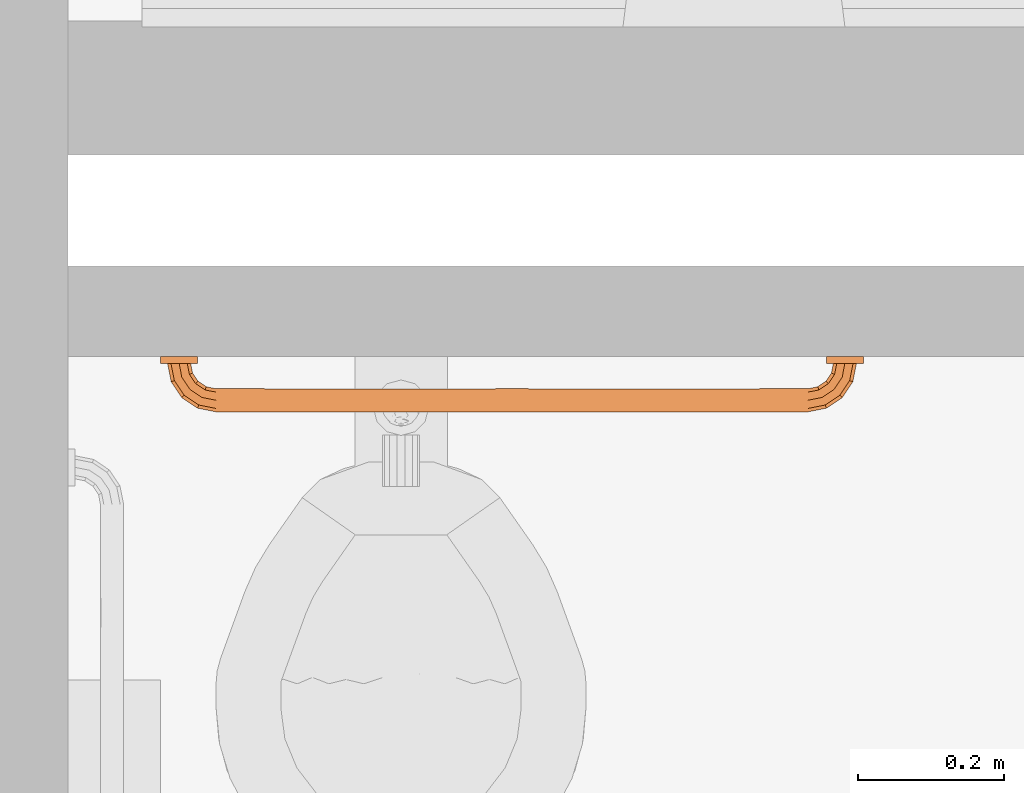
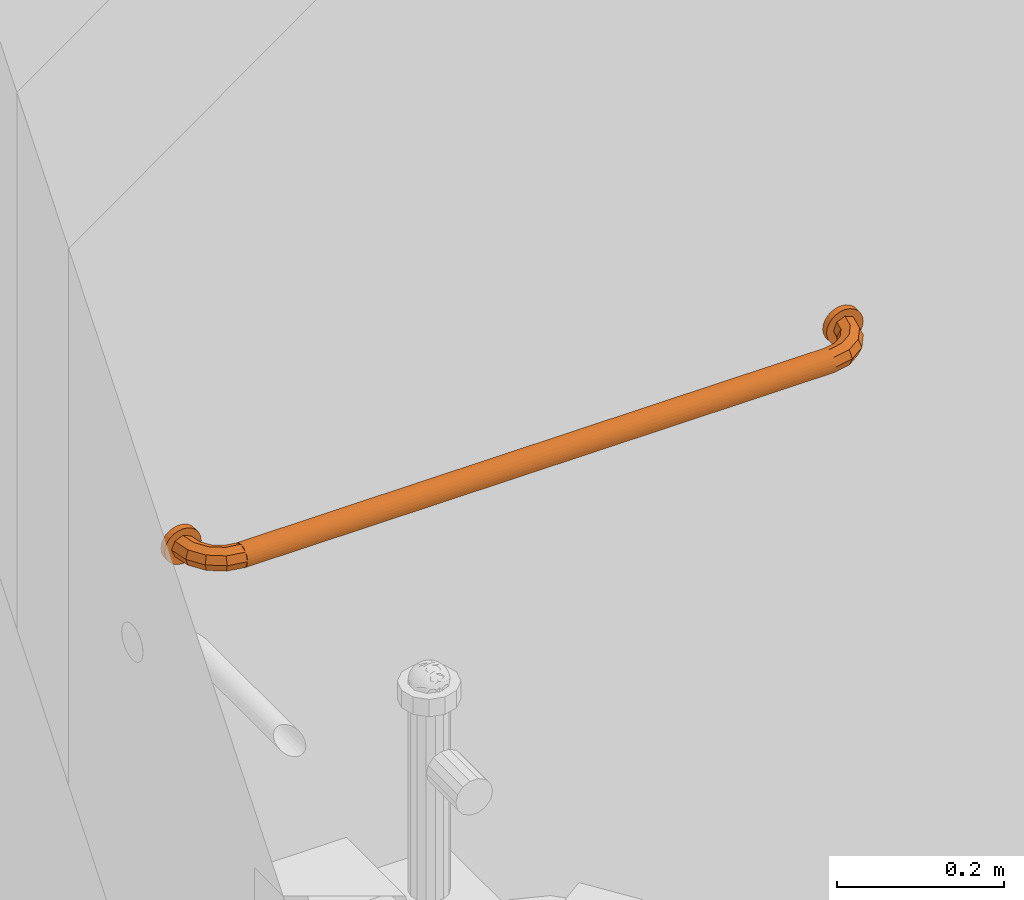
# One storey, part 89 of 142: 1 proxy.
"""IFC2X3 building model written with IfcOpenShell, lengths in feet."""

from ifc_helpers import new_model, entity, si_unit, converted_unit, derived_unit, direction, frame, origin, place, context, subcontext, project, spatial, faceted_brep, source, transform, mapped, type_object, type_shapes, element, save


model = new_model("IFC2X3")

# Units and contexts
model_context = context("Model", 3, precision=0.0001, world=origin(), true_north=direction((6.12303176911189e-17, 1.0)))
body_context = subcontext(model_context, "Body", "Model", "MODEL_VIEW")
ifc_project = project(units=[converted_unit("LENGTHUNIT", "FOOT", entity("IfcRatioMeasure", 0.3048), si_unit("LENGTHUNIT", "METRE"), dimensions=[1, 0, 0, 0, 0, 0, 0]), converted_unit("AREAUNIT", "SQUARE FOOT", entity("IfcRatioMeasure", 0.09290304), si_unit("AREAUNIT", "SQUARE_METRE"), dimensions=[2, 0, 0, 0, 0, 0, 0]), converted_unit("VOLUMEUNIT", "CUBIC FOOT", entity("IfcRatioMeasure", 0.028316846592), si_unit("VOLUMEUNIT", "CUBIC_METRE"), dimensions=[3, 0, 0, 0, 0, 0, 0]), converted_unit("PLANEANGLEUNIT", "DEGREE", entity("IfcRatioMeasure", 0.0174532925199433), si_unit("PLANEANGLEUNIT", "RADIAN"), dimensions=[0, 0, 0, 0, 0, 0, 0]), si_unit("MASSUNIT", "GRAM", prefix="KILO"), derived_unit("MASSDENSITYUNIT", [(si_unit("MASSUNIT", "GRAM", prefix="KILO"), 1), (si_unit("LENGTHUNIT", "METRE"), -3)]), si_unit("TIMEUNIT", "SECOND"), si_unit("FREQUENCYUNIT", "HERTZ"), si_unit("THERMODYNAMICTEMPERATUREUNIT", "DEGREE_CELSIUS"), derived_unit("THERMALTRANSMITTANCEUNIT", [(si_unit("MASSUNIT", "GRAM", prefix="KILO"), 1), (si_unit("THERMODYNAMICTEMPERATUREUNIT", "KELVIN"), -1), (si_unit("TIMEUNIT", "SECOND"), -3)]), derived_unit("VOLUMETRICFLOWRATEUNIT", [(si_unit("LENGTHUNIT", "METRE"), 3), (si_unit("TIMEUNIT", "SECOND"), -1)]), si_unit("ELECTRICCURRENTUNIT", "AMPERE"), si_unit("ELECTRICVOLTAGEUNIT", "VOLT"), si_unit("POWERUNIT", "WATT"), si_unit("FORCEUNIT", "NEWTON"), si_unit("ILLUMINANCEUNIT", "LUX"), si_unit("LUMINOUSFLUXUNIT", "LUMEN"), si_unit("LUMINOUSINTENSITYUNIT", "CANDELA"), derived_unit("USERDEFINED", [(si_unit("MASSUNIT", "GRAM", prefix="KILO"), -1), (si_unit("LENGTHUNIT", "METRE"), -2), (si_unit("TIMEUNIT", "SECOND"), 3), (si_unit("LUMINOUSFLUXUNIT", "LUMEN"), 1)]), derived_unit("LINEARVELOCITYUNIT", [(si_unit("LENGTHUNIT", "METRE"), 1), (si_unit("TIMEUNIT", "SECOND"), -1)]), si_unit("PRESSUREUNIT", "PASCAL"), derived_unit("USERDEFINED", [(si_unit("LENGTHUNIT", "METRE"), -2), (si_unit("MASSUNIT", "GRAM", prefix="KILO"), 1), (si_unit("TIMEUNIT", "SECOND"), -2)])], contexts=[model_context])

# Site, building, storey, space
site_placement = place(None, origin())
site = spatial("IfcSite", under=ifc_project, at=site_placement, Name="Default", CompositionType="ELEMENT")
building_placement = place(site_placement, origin())
building = spatial("IfcBuilding", under=site, at=building_placement, Name="OUTPATIENT / PACT CLINIC (Ch. 265)", CompositionType="ELEMENT")
storey_placement = place(building_placement, origin())
storey = spatial("IfcBuildingStorey", under=building, at=storey_placement, Name="LEVEL 1", CompositionType="ELEMENT", Elevation=0.0)
space_placement = place(storey_placement, origin())
space = spatial("IfcSpace", under=storey, at=space_placement, Name="TPG01", CompositionType="ELEMENT", InteriorOrExteriorSpace="INTERNAL")

# Proxy
building_element_proxy_type = type_object("IfcBuildingElementProxyType", Name="A5109 - Grab Bar, 1.25 in Dia, SS, 2 Wall, W-C Accessible_Improved", PredefinedType="NOTDEFINED")
shared_shape = source(origin(), body_context, "Body", "Brep", [
    faceted_brep([(0.987313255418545, 0.0950305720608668, 0.0520833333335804), (0.953288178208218, 0.0809369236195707, 0.0368284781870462), (0.963171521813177, 0.031249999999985, 0.0368284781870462), (1.0, 0.0312499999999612, 0.0520833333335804), (0.939194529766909, 0.0750991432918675, 0.0), (0.947916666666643, 0.0312499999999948, 0.0), (0.953288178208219, 0.0809369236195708, -0.0368284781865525), (0.963171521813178, 0.031249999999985, -0.0368284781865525), (0.987313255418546, 0.0950305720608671, -0.0520833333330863), (1.0, 0.0312499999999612, -0.0520833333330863), (1.02133833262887, 0.109124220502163, -0.036828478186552), (1.03682847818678, 0.0312499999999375, -0.036828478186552), (1.03543198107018, 0.114962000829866, 0.0), (1.05208333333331, 0.0312499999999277, 0.0), (1.02133833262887, 0.109124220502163, 0.0368284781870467), (1.03682847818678, 0.0312499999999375, 0.0368284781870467), (0.951184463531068, 0.149101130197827, 0.0520833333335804), (0.925142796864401, 0.12305946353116, 0.0368284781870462), (0.914355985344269, 0.112272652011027, 0.0), (0.925142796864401, 0.12305946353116, -0.0368284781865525), (0.951184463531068, 0.149101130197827, -0.0520833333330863), (0.977226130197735, 0.175142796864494, -0.036828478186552), (0.988012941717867, 0.185929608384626, 0.0), (0.977226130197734, 0.175142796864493, 0.0368284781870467), (0.897113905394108, 0.185229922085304, 0.0520833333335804), (0.883020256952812, 0.151204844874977, 0.0368284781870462), (0.877182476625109, 0.137111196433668, 0.0), (0.883020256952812, 0.151204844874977, -0.0368284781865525), (0.897113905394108, 0.185229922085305, -0.0520833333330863), (0.911207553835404, 0.219254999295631, -0.036828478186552), (0.917045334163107, 0.23334864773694, 0.0), (0.911207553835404, 0.219254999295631, 0.0368284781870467), (0.833333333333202, 0.197916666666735, 0.0520833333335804), (0.833333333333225, 0.161088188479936, 0.0368284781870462), (0.833333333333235, 0.145833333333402, 0.0), (0.833333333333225, 0.161088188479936, -0.0368284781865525), (0.833333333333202, 0.197916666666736, -0.0520833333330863), (0.833333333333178, 0.234745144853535, -0.036828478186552), (0.833333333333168, 0.250000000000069, 0.0), (0.833333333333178, 0.234745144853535, 0.0368284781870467)], [[[0, 1, 2, 3]], [[1, 4, 5, 2]], [[4, 6, 7, 5]], [[6, 8, 9, 7]], [[8, 10, 11, 9]], [[10, 12, 13, 11]], [[12, 14, 15, 13]], [[14, 0, 3, 15]], [[16, 17, 1, 0]], [[17, 18, 4, 1]], [[18, 19, 6, 4]], [[19, 20, 8, 6]], [[20, 21, 10, 8]], [[21, 22, 12, 10]], [[22, 23, 14, 12]], [[23, 16, 0, 14]], [[24, 25, 17, 16]], [[25, 26, 18, 17]], [[26, 27, 19, 18]], [[27, 28, 20, 19]], [[28, 29, 21, 20]], [[29, 30, 22, 21]], [[30, 31, 23, 22]], [[31, 24, 16, 23]], [[32, 33, 25, 24]], [[33, 34, 26, 25]], [[34, 35, 27, 26]], [[35, 36, 28, 27]], [[36, 37, 29, 28]], [[37, 38, 30, 29]], [[38, 39, 31, 30]], [[39, 32, 24, 31]], [[3, 2, 5, 7, 9, 11, 13, 15]], [[39, 38, 37, 36, 35, 34, 33, 32]]]),
    faceted_brep([(0.958333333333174, 0.0312499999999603, -0.0721687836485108), (0.941074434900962, 0.0312499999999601, -0.0589255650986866), (0.927831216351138, 0.0312499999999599, -0.0416666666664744), (0.919506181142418, 0.0312499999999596, -0.0215682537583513), (0.916666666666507, 0.0312499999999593, 0.0), (0.919506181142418, 0.031249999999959, 0.021568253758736), (0.927831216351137, 0.0312499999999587, 0.0416666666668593), (0.941074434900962, 0.0312499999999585, 0.0589255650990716), (0.958333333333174, 0.0312499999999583, 0.0721687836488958), (0.978431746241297, 0.0312499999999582, 0.080493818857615), (1.0, 0.0312499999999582, 0.083333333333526), (1.02156825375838, 0.0312499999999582, 0.080493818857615), (1.04166666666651, 0.0312499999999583, 0.0721687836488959), (1.05892556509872, 0.0312499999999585, 0.0589255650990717), (1.07216878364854, 0.0312499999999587, 0.0416666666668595), (1.08049381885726, 0.031249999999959, 0.0215682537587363), (1.08333333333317, 0.0312499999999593, 0.0), (1.08049381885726, 0.0312499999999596, -0.0215682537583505), (1.07216878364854, 0.0312499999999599, -0.0416666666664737), (1.05892556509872, 0.0312499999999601, -0.0589255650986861), (1.04166666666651, 0.0312499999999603, -0.0721687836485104), (1.02156825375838, 0.0312499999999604, -0.0804938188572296), (1.0, 0.0312499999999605, -0.0833333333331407), (0.978431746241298, 0.0312499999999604, -0.0804938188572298), (0.978431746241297, 0.0, 0.0804938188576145), (0.958333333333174, 0.0, 0.0721687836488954), (0.941074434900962, 0.0, 0.0589255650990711), (0.927831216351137, 0.0, 0.0416666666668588), (0.919506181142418, 0.0, 0.0215682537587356), (0.916666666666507, 0.0, 0.0), (0.919506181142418, 0.0, -0.0215682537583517), (0.927831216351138, 0.0, -0.0416666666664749), (0.941074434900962, 0.0, -0.0589255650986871), (0.958333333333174, 0.0, -0.0721687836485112), (0.978431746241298, 0.0, -0.0804938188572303), (1.0, 0.0, -0.0833333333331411), (1.02156825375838, 0.0, -0.0804938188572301), (1.04166666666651, 0.0, -0.0721687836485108), (1.05892556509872, 0.0, -0.0589255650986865), (1.07216878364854, 0.0, -0.0416666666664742), (1.08049381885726, 0.0, -0.0215682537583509), (1.08333333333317, 0.0, 0.0), (1.08049381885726, 0.0, 0.0215682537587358), (1.07216878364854, 0.0, 0.0416666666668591), (1.05892556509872, 0.0, 0.0589255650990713), (1.04166666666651, 0.0, 0.0721687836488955), (1.02156825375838, 0.0, 0.0804938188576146), (1.0, 0.0, 0.0833333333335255)], [[[0, 1, 2, 3, 4, 5, 6, 7, 8, 9, 10, 11, 12, 13, 14, 15, 16, 17, 18, 19, 20, 21, 22, 23]], [[24, 25, 26, 27, 28, 29, 30, 31, 32, 33, 34, 35, 36, 37, 38, 39, 40, 41, 42, 43, 44, 45, 46, 47]], [[40, 17, 16, 41]], [[39, 18, 17, 40]], [[20, 19, 38, 37]], [[39, 38, 19, 18]], [[21, 20, 37, 36]], [[22, 21, 36, 35]], [[34, 23, 22, 35]], [[33, 0, 23, 34]], [[2, 1, 32, 31]], [[33, 32, 1, 0]], [[3, 2, 31, 30]], [[4, 3, 30, 29]], [[28, 5, 4, 29]], [[27, 6, 5, 28]], [[8, 7, 26, 25]], [[27, 26, 7, 6]], [[9, 8, 25, 24]], [[10, 9, 24, 47]], [[46, 11, 10, 47]], [[45, 12, 11, 46]], [[14, 13, 44, 43]], [[45, 44, 13, 12]], [[15, 14, 43, 42]], [[16, 15, 42, 41]]]),
    faceted_brep([(-1.89711390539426, 0.185229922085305, 0.052083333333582), (-1.88302025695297, 0.151204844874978, 0.0368284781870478), (-1.83333333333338, 0.161088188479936, 0.0368284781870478), (-1.83333333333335, 0.197916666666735, 0.052083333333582), (-1.87718247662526, 0.137111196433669, 0.0), (-1.83333333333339, 0.145833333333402, 0.0), (-1.88302025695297, 0.151204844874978, -0.0368284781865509), (-1.83333333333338, 0.161088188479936, -0.0368284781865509), (-1.89711390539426, 0.185229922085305, -0.0520833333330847), (-1.83333333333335, 0.197916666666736, -0.0520833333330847), (-1.91120755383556, 0.219254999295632, -0.0368284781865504), (-1.83333333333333, 0.234745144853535, -0.0368284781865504), (-1.91704533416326, 0.233348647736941, 0.0), (-1.83333333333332, 0.250000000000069, 0.0), (-1.91120755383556, 0.219254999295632, 0.0368284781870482), (-1.83333333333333, 0.234745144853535, 0.0368284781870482), (-1.95118446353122, 0.149101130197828, 0.052083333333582), (-1.92514279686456, 0.123059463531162, 0.0368284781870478), (-1.91435598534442, 0.112272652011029, 0.0), (-1.92514279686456, 0.123059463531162, -0.0368284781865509), (-1.95118446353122, 0.149101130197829, -0.0520833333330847), (-1.97722613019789, 0.175142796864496, -0.0368284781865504), (-1.98801294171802, 0.185929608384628, 0.0), (-1.97722613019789, 0.175142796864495, 0.0368284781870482), (-1.9873132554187, 0.0950305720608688, 0.052083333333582), (-1.95328817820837, 0.0809369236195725, 0.0368284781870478), (-1.93919452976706, 0.0750991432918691, 0.0), (-1.95328817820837, 0.0809369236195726, -0.0368284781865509), (-1.9873132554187, 0.0950305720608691, -0.0520833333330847), (-2.02133833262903, 0.109124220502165, -0.0368284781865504), (-2.03543198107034, 0.114962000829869, 0.0), (-2.02133833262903, 0.109124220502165, 0.0368284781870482), (-2.0, 0.0312499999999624, 0.052083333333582), (-1.96317152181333, 0.0312499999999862, 0.0368284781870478), (-1.9479166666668, 0.0312499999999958, 0.0), (-1.96317152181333, 0.0312499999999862, -0.0368284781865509), (-2.0, 0.0312499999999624, -0.0520833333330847), (-2.03682847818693, 0.0312499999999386, -0.0368284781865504), (-2.05208333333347, 0.031249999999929, 0.0), (-2.03682847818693, 0.0312499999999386, 0.0368284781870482)], [[[0, 1, 2, 3]], [[1, 4, 5, 2]], [[4, 6, 7, 5]], [[6, 8, 9, 7]], [[8, 10, 11, 9]], [[10, 12, 13, 11]], [[12, 14, 15, 13]], [[14, 0, 3, 15]], [[16, 17, 1, 0]], [[17, 18, 4, 1]], [[18, 19, 6, 4]], [[19, 20, 8, 6]], [[20, 21, 10, 8]], [[21, 22, 12, 10]], [[22, 23, 14, 12]], [[23, 16, 0, 14]], [[24, 25, 17, 16]], [[25, 26, 18, 17]], [[26, 27, 19, 18]], [[27, 28, 20, 19]], [[28, 29, 21, 20]], [[29, 30, 22, 21]], [[30, 31, 23, 22]], [[31, 24, 16, 23]], [[32, 33, 25, 24]], [[33, 34, 26, 25]], [[34, 35, 27, 26]], [[35, 36, 28, 27]], [[36, 37, 29, 28]], [[37, 38, 30, 29]], [[38, 39, 31, 30]], [[39, 32, 24, 31]], [[3, 2, 5, 7, 9, 11, 13, 15]], [[39, 38, 37, 36, 35, 34, 33, 32]]]),
    faceted_brep([(-1.97843174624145, 0.0312499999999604, -0.0804938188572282), (-2.0, 0.0312499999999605, -0.0833333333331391), (-2.02156825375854, 0.0312499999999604, -0.080493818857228), (-2.04166666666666, 0.0312499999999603, -0.0721687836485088), (-2.05892556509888, 0.0312499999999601, -0.0589255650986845), (-2.0721687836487, 0.0312499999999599, -0.0416666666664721), (-2.08049381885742, 0.0312499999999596, -0.0215682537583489), (-2.08333333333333, 0.0312499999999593, 0.0), (-2.08049381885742, 0.031249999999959, 0.0215682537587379), (-2.0721687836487, 0.0312499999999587, 0.0416666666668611), (-2.05892556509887, 0.0312499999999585, 0.0589255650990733), (-2.04166666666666, 0.0312499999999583, 0.0721687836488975), (-2.02156825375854, 0.0312499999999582, 0.0804938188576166), (-2.0, 0.0312499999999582, 0.0833333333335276), (-1.97843174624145, 0.0312499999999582, 0.0804938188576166), (-1.95833333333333, 0.0312499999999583, 0.0721687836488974), (-1.94107443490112, 0.0312499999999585, 0.0589255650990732), (-1.92783121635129, 0.0312499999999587, 0.0416666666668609), (-1.91950618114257, 0.031249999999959, 0.0215682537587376), (-1.91666666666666, 0.0312499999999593, 0.0), (-1.91950618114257, 0.0312499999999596, -0.0215682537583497), (-1.92783121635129, 0.0312499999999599, -0.0416666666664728), (-1.94107443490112, 0.0312499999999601, -0.058925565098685), (-1.95833333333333, 0.0312499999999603, -0.0721687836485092), (-2.0, 0.0, 0.0833333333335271), (-2.02156825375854, 0.0, 0.0804938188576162), (-2.04166666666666, 0.0, 0.0721687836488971), (-2.05892556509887, 0.0, 0.0589255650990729), (-2.0721687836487, 0.0, 0.0416666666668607), (-2.08049381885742, 0.0, 0.0215682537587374), (-2.08333333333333, 0.0, 0.0), (-2.08049381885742, 0.0, -0.0215682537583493), (-2.0721687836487, 0.0, -0.0416666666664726), (-2.05892556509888, 0.0, -0.0589255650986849), (-2.04166666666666, 0.0, -0.0721687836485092), (-2.02156825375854, 0.0, -0.0804938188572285), (-2.0, 0.0, -0.0833333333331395), (-1.97843174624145, 0.0, -0.0804938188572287), (-1.95833333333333, 0.0, -0.0721687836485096), (-1.94107443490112, 0.0, -0.0589255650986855), (-1.92783121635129, 0.0, -0.0416666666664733), (-1.91950618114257, 0.0, -0.0215682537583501), (-1.91666666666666, 0.0, 0.0), (-1.91950618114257, 0.0, 0.0215682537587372), (-1.92783121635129, 0.0, 0.0416666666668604), (-1.94107443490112, 0.0, 0.0589255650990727), (-1.95833333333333, 0.0, 0.072168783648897), (-1.97843174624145, 0.0, 0.0804938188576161)], [[[0, 1, 2, 3, 4, 5, 6, 7, 8, 9, 10, 11, 12, 13, 14, 15, 16, 17, 18, 19, 20, 21, 22, 23]], [[24, 25, 26, 27, 28, 29, 30, 31, 32, 33, 34, 35, 36, 37, 38, 39, 40, 41, 42, 43, 44, 45, 46, 47]], [[30, 7, 6, 31]], [[31, 6, 5, 32]], [[34, 33, 4, 3]], [[4, 33, 32, 5]], [[35, 34, 3, 2]], [[35, 2, 1, 36]], [[36, 1, 0, 37]], [[37, 0, 23, 38]], [[40, 39, 22, 21]], [[22, 39, 38, 23]], [[41, 40, 21, 20]], [[41, 20, 19, 42]], [[42, 19, 18, 43]], [[43, 18, 17, 44]], [[46, 45, 16, 15]], [[16, 45, 44, 17]], [[47, 46, 15, 14]], [[47, 14, 13, 24]], [[24, 13, 12, 25]], [[25, 12, 11, 26]], [[28, 27, 10, 9]], [[10, 27, 26, 11]], [[29, 28, 9, 8]], [[29, 8, 7, 30]]]),
    faceted_brep([(0.833333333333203, 0.161088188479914, 0.0368284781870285), (0.833333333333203, 0.152811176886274, 0.0260416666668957), (0.833333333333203, 0.147608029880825, 0.0134801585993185), (0.833333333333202, 0.14583333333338, 0.0), (0.833333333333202, 0.147608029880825, -0.0134801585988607), (0.833333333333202, 0.152811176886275, -0.0260416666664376), (0.833333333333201, 0.161088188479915, -0.0368284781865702), (0.833333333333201, 0.171875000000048, -0.0451054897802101), (0.833333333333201, 0.184436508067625, -0.0503086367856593), (0.833333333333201, 0.197916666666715, -0.0520833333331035), (0.833333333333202, 0.211396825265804, -0.0503086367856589), (0.833333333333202, 0.223958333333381, -0.0451054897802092), (0.833333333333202, 0.234745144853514, -0.0368284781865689), (0.833333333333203, 0.243022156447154, -0.0260416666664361), (0.833333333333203, 0.248225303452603, -0.013480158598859), (0.833333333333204, 0.250000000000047, 0.0), (0.833333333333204, 0.248225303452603, 0.0134801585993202), (0.833333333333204, 0.243022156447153, 0.0260416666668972), (0.833333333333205, 0.234745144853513, 0.0368284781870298), (0.833333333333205, 0.22395833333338, 0.0451054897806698), (0.833333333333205, 0.211396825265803, 0.050308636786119), (0.833333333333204, 0.197916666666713, 0.0520833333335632), (0.833333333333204, 0.184436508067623, 0.0503086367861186), (0.833333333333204, 0.171875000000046, 0.0451054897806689), (-1.83333333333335, 0.250000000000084, 0.0), (-1.83333333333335, 0.24822530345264, -0.0134801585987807), (-1.83333333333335, 0.243022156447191, -0.0260416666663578), (-1.83333333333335, 0.234745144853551, -0.0368284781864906), (-1.83333333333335, 0.223958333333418, -0.0451054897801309), (-1.83333333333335, 0.211396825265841, -0.0503086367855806), (-1.83333333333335, 0.197916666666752, -0.0520833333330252), (-1.83333333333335, 0.184436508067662, -0.050308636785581), (-1.83333333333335, 0.171875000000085, -0.0451054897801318), (-1.83333333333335, 0.161088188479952, -0.0368284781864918), (-1.83333333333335, 0.152811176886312, -0.0260416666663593), (-1.83333333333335, 0.147608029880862, -0.0134801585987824), (-1.83333333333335, 0.145833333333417, 0.0), (-1.83333333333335, 0.147608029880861, 0.0134801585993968), (-1.83333333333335, 0.152811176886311, 0.026041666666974), (-1.83333333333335, 0.161088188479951, 0.0368284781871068), (-1.83333333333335, 0.171875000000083, 0.0451054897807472), (-1.83333333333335, 0.18443650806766, 0.0503086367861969), (-1.83333333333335, 0.19791666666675, 0.0520833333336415), (-1.83333333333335, 0.21139682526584, 0.0503086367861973), (-1.83333333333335, 0.223958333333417, 0.0451054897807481), (-1.83333333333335, 0.23474514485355, 0.036828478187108), (-1.83333333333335, 0.24302215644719, 0.0260416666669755), (-1.83333333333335, 0.248225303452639, 0.0134801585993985), (0.027611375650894, 0.177985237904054, 0.0481187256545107), (0.213018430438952, 0.166210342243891, 0.0413204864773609), (0.0276113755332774, 0.156596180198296, 0.0317063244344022), (0.223932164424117, 0.149797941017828, 0.0199314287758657), (0.213018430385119, 0.14979794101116, -0.0199314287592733), (-0.500000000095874, 0.149797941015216, -0.0199314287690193), (-1.2130184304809, 0.14979794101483, -0.0199314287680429), (-0.500000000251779, 0.154851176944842, -0.0292922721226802), (0.21301843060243, 0.166210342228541, -0.0413204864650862), (-0.38666469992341, 0.187504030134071, -0.0510318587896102), (0.273230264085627, 0.187922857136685, -0.0511155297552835), (0.0276113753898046, 0.177985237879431, -0.0481187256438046), (-0.49999999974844, 0.166210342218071, -0.0413204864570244), (-1.02761137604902, 0.156596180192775, -0.0317063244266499), (-1.21301843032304, 0.166210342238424, -0.0413204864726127), (0.027611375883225, 0.15659618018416, -0.0317063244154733), (-0.500000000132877, 0.146752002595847, -0.00973913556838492), (-1.02761137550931, 0.146278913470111, -0.00679823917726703), (-1.02761137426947, 0.177985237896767, -0.0481187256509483), (-0.499999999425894, 0.177964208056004, -0.0481100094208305), (-1.02761137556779, 0.156596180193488, 0.0317063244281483), (-0.00758943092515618, 0.197916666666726, -0.0520833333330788), (-1.27323026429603, 0.18792285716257, 0.0511155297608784), (-0.992385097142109, 0.197916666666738, 0.0520833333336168), (0.0276113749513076, 0.146278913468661, -0.00679823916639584), (0.200359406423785, 0.146278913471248, 0.00679823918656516), (-1.22393216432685, 0.149797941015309, 0.0199314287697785), (-0.500000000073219, 0.149797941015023, 0.0199314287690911), (-0.49999999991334, 0.154851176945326, 0.0292922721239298), (-1.20035940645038, 0.146278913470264, 0.00679823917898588), (-1.21301843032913, 0.166210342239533, 0.041320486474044), (-0.499999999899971, 0.166210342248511, 0.0413204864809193), (-1.02761137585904, 0.177985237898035, 0.0481187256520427), (-0.50000000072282, 0.145915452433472, 0.00292358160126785), (0.264201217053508, 0.188316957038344, 0.051191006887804), (-1.26420121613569, 0.188316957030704, -0.0511910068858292), (-0.613335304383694, 0.187504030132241, 0.0510318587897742), (-0.50000000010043, 0.177964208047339, 0.0481100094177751), (-0.920461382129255, 0.197916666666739, -0.052083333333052), (-0.079537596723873, 0.197916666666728, -0.0520833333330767), (-0.0795258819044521, 0.197916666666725, 0.05208333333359), (-0.920474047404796, 0.197916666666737, 0.0520833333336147), (-0.992408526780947, 0.19791666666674, -0.0520833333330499), (-0.00758275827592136, 0.197916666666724, 0.0520833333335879), (0.0276113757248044, 0.217848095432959, -0.0481187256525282), (0.213018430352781, 0.229622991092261, -0.0413204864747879), (0.0276113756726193, 0.239237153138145, -0.0317063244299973), (0.223932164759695, 0.24603539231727, -0.0199314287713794), (0.213018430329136, 0.246035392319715, 0.0199314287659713), (-0.500000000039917, 0.246035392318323, 0.0199314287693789), (-1.21301843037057, 0.246035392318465, 0.0199314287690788), (-0.50000000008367, 0.240982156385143, 0.0292922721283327), (0.213018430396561, 0.229622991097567, 0.0413204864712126), (-0.386664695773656, 0.208329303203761, 0.0510318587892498), (0.273230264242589, 0.207910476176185, 0.0511155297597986), (0.0276113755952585, 0.217848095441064, 0.0481187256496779), (-0.49999999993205, 0.229622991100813, 0.0413204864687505), (-1.02761137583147, 0.239237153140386, 0.0317063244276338), (-1.21301843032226, 0.229622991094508, 0.0413204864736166), (0.0276113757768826, 0.239237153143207, 0.0317063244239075), (-0.500000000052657, 0.249081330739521, 0.00973913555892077), (-1.02761137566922, 0.249554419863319, 0.00679823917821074), (-1.02761137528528, 0.217848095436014, 0.0481187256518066), (-0.499999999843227, 0.217869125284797, 0.0481100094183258), (-1.0276113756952, 0.239237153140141, -0.0317063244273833), (-1.27323026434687, 0.207910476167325, -0.0511155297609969), (0.0276113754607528, 0.249554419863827, 0.00679823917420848), (0.200359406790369, 0.249554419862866, -0.0067982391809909), (-1.22393216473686, 0.246035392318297, -0.0199314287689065), (-0.500000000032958, 0.246035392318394, -0.0199314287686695), (-0.499999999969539, 0.240982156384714, -0.0292922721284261), (-1.20035940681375, 0.249554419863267, -0.00679823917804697), (-1.21301843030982, 0.229622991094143, -0.0413204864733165), (-0.499999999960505, 0.229622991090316, -0.041320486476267), (-1.02761137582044, 0.217848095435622, -0.0481187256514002), (-0.500000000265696, 0.249917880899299, -0.00292358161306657), (0.264201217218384, 0.207516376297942, -0.0511910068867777), (-1.26420121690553, 0.207516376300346, 0.0511910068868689), (-0.613335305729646, 0.20832930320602, -0.0510318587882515), (-0.500000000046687, 0.217869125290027, -0.048110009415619)], [[[0, 1, 2, 3, 4, 5, 6, 7, 8, 9, 10, 11, 12, 13, 14, 15, 16, 17, 18, 19, 20, 21, 22, 23]], [[24, 25, 26, 27, 28, 29, 30, 31, 32, 33, 34, 35, 36, 37, 38, 39, 40, 41, 42, 43, 44, 45, 46, 47]], [[23, 48, 49]], [[1, 50, 51]], [[52, 53, 54, 55]], [[7, 6, 56]], [[35, 34, 54]], [[57, 58, 59]], [[59, 58, 8]], [[60, 61, 62]], [[60, 56, 63]], [[34, 61, 54]], [[54, 64, 65]], [[32, 31, 66]], [[65, 36, 35]], [[57, 67, 66]], [[32, 62, 33]], [[68, 39, 38]], [[58, 69, 9]], [[42, 70, 71]], [[59, 56, 60]], [[60, 62, 66]], [[63, 52, 55]], [[72, 3, 73]], [[52, 5, 4]], [[6, 5, 63]], [[4, 72, 52]], [[74, 75, 51, 76]], [[77, 74, 37]], [[39, 68, 78]], [[61, 60, 55]], [[7, 59, 8]], [[79, 80, 78]], [[79, 49, 48]], [[81, 77, 65]], [[53, 52, 64, 54]], [[40, 39, 78]], [[6, 63, 56]], [[23, 22, 48]], [[72, 4, 3]], [[2, 51, 73]], [[0, 50, 1]], [[61, 34, 33]], [[32, 66, 62]], [[50, 49, 79]], [[79, 78, 68]], [[82, 22, 21]], [[74, 76, 68]], [[49, 0, 23]], [[83, 31, 30]], [[37, 36, 77]], [[80, 41, 40]], [[73, 3, 2]], [[65, 77, 36]], [[50, 79, 76]], [[84, 85, 48]], [[80, 70, 41]], [[84, 70, 80]], [[59, 67, 57]], [[66, 31, 83]], [[80, 85, 84]], [[48, 22, 82]], [[38, 37, 74]], [[81, 73, 75]], [[81, 64, 72]], [[1, 51, 2]], [[35, 54, 65]], [[5, 52, 63]], [[7, 56, 59]], [[33, 62, 61]], [[0, 49, 50]], [[40, 78, 80]], [[38, 74, 68]], [[74, 77, 75]], [[51, 75, 73]], [[77, 81, 75]], [[81, 72, 73]], [[65, 64, 81]], [[72, 64, 52]], [[8, 58, 9]], [[69, 58, 57]], [[57, 86, 87, 69]], [[83, 86, 57]], [[67, 60, 66]], [[67, 59, 60]], [[63, 55, 60]], [[61, 55, 54]], [[68, 76, 79]], [[50, 76, 51]], [[41, 70, 42]], [[71, 70, 84]], [[84, 88, 89, 71]], [[82, 88, 84]], [[85, 79, 48]], [[85, 80, 79]], [[66, 83, 57]], [[83, 30, 90, 86]], [[48, 82, 84]], [[82, 21, 91, 88]], [[11, 92, 93]], [[13, 94, 95]], [[96, 97, 98, 99]], [[19, 18, 100]], [[47, 46, 98]], [[101, 102, 103]], [[103, 102, 20]], [[104, 105, 106]], [[104, 100, 107]], [[46, 105, 98]], [[98, 108, 109]], [[44, 43, 110]], [[109, 24, 47]], [[101, 111, 110]], [[44, 106, 45]], [[112, 27, 26]], [[102, 91, 21]], [[30, 113, 90]], [[103, 100, 104]], [[104, 106, 110]], [[107, 96, 99]], [[114, 15, 115]], [[96, 17, 16]], [[18, 17, 107]], [[16, 114, 96]], [[116, 117, 95, 118]], [[119, 116, 25]], [[27, 112, 120]], [[105, 104, 99]], [[19, 103, 20]], [[121, 122, 120]], [[121, 93, 92]], [[123, 119, 109]], [[97, 96, 108, 98]], [[28, 27, 120]], [[18, 107, 100]], [[11, 10, 92]], [[114, 16, 15]], [[14, 95, 115]], [[12, 94, 13]], [[105, 46, 45]], [[44, 110, 106]], [[94, 93, 121]], [[121, 120, 112]], [[124, 10, 9]], [[116, 118, 112]], [[93, 12, 11]], [[125, 43, 42]], [[25, 24, 119]], [[122, 29, 28]], [[115, 15, 14]], [[109, 119, 24]], [[94, 121, 118]], [[126, 127, 92]], [[122, 113, 29]], [[126, 113, 122]], [[103, 111, 101]], [[110, 43, 125]], [[122, 127, 126]], [[92, 10, 124]], [[26, 25, 116]], [[123, 115, 117]], [[123, 108, 114]], [[13, 95, 14]], [[47, 98, 109]], [[17, 96, 107]], [[19, 100, 103]], [[45, 106, 105]], [[12, 93, 94]], [[28, 120, 122]], [[26, 116, 112]], [[116, 119, 117]], [[95, 117, 115]], [[119, 123, 117]], [[123, 114, 115]], [[109, 108, 123]], [[114, 108, 96]], [[20, 102, 21]], [[91, 102, 101]], [[101, 89, 88, 91]], [[125, 89, 101]], [[111, 104, 110]], [[111, 103, 104]], [[107, 99, 104]], [[105, 99, 98]], [[112, 118, 121]], [[94, 118, 95]], [[29, 113, 30]], [[90, 113, 126]], [[126, 87, 86, 90]], [[124, 87, 126]], [[127, 121, 92]], [[127, 122, 121]], [[110, 125, 101]], [[125, 42, 71, 89]], [[92, 124, 126]], [[124, 9, 69, 87]]]),
])
type_shapes(building_element_proxy_type, [shared_shape])
proxy_placement = place(space_placement, frame((436.755034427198, -932.951758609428, 3.0), z_axis=(0.0, 0.0, 1.0), x_axis=(-1.0, 0.0, 0.0)))
element("IfcBuildingElementProxy", 1, at=proxy_placement, inside=space, type_object=building_element_proxy_type, Name="A5109 - Grab Bar, 1.25 in Dia, SS, 2 Wall, W-C Accessible_Improved1:A5109 - Grab Bar, 1.25 in Dia, SS, 2 Wall, W-C Accessible_Improved", ObjectType="A5109 - Grab Bar, 1.25 in Dia, SS, 2 Wall, W-C Accessible_Improved", context=body_context, shape_type="MappedRepresentation", body=[
    mapped(shared_shape, transform((0.0, 0.0, 0.0), scale=1.0)),
])

save(model, "model.ifc")
